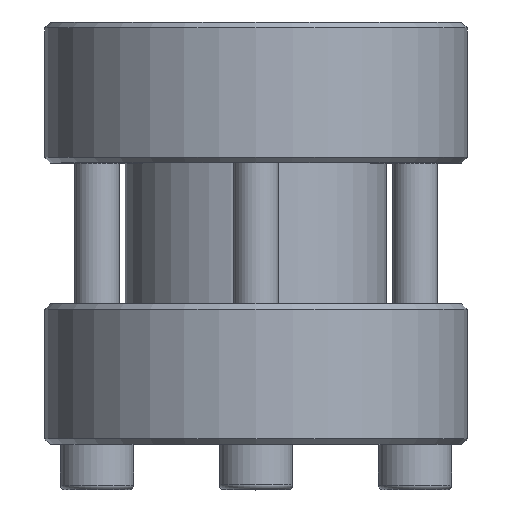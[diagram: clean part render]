
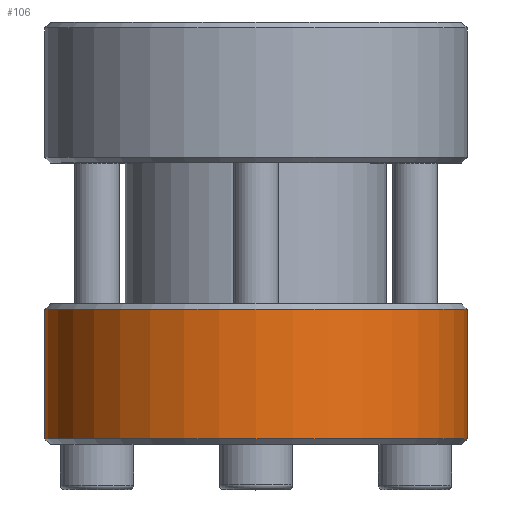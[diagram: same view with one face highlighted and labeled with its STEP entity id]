
A CAD part, top view. The second image highlights one B-rep face of the part: STEP entity #106.
In plain terms, the highlighted cylindrical face has radius 37.5 mm (diameter 75 mm), a full revolution.
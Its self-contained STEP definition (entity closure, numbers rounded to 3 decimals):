
#106 = ADVANCED_FACE( '', ( #222, #223 ), #224, .T. );
#222 = FACE_OUTER_BOUND( '', #362, .T. );
#223 = FACE_OUTER_BOUND( '', #363, .T. );
#224 = CYLINDRICAL_SURFACE( '', #364, 37.5 );
#362 = EDGE_LOOP( '', ( #597 ) );
#363 = EDGE_LOOP( '', ( #598 ) );
#364 = AXIS2_PLACEMENT_3D( '', #599, #600, #601 );
#597 = ORIENTED_EDGE( '', *, *, #804, .T. );
#598 = ORIENTED_EDGE( '', *, *, #814, .T. );
#599 = CARTESIAN_POINT( '', ( 0., -60., 0. ) );
#600 = DIRECTION( '', ( 0., 1., 0. ) );
#601 = DIRECTION( '', ( 0., 0., -1. ) );
#804 = EDGE_CURVE( '', #991, #991, #992, .T. );
#814 = EDGE_CURVE( '', #1006, #1006, #1007, .T. );
#991 = VERTEX_POINT( '', #1319 );
#992 = CIRCLE( '', #1320, 37.5 );
#1006 = VERTEX_POINT( '', #1334 );
#1007 = CIRCLE( '', #1335, 37.5 );
#1319 = CARTESIAN_POINT( '', ( 0., 24., -37.5 ) );
#1320 = AXIS2_PLACEMENT_3D( '', #1473, #1474, #1475 );
#1334 = CARTESIAN_POINT( '', ( 0., 1., 37.5 ) );
#1335 = AXIS2_PLACEMENT_3D( '', #1491, #1492, #1493 );
#1473 = CARTESIAN_POINT( '', ( 0., 24., 0. ) );
#1474 = DIRECTION( '', ( 0., -1., 0. ) );
#1475 = DIRECTION( '', ( 0., 0., -1. ) );
#1491 = CARTESIAN_POINT( '', ( 0., 1., 0. ) );
#1492 = DIRECTION( '', ( 0., 1., 0. ) );
#1493 = DIRECTION( '', ( 0., 0., 1. ) );
